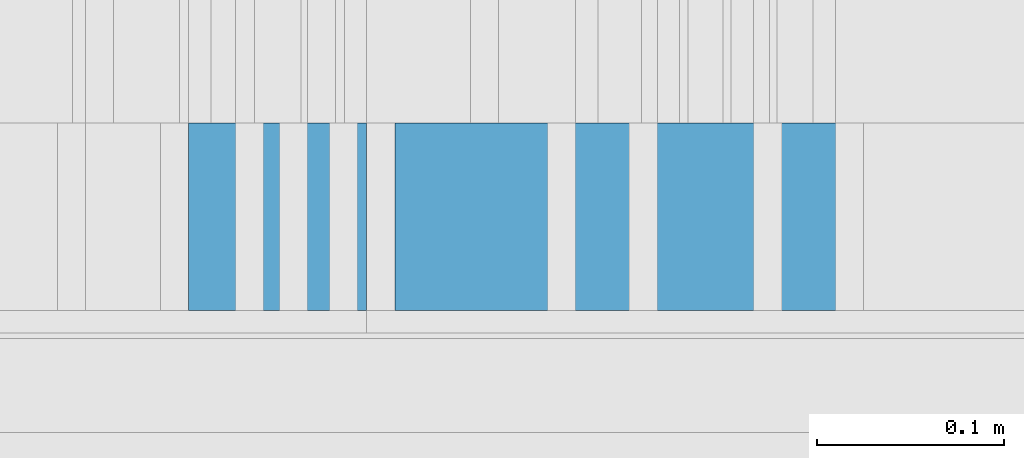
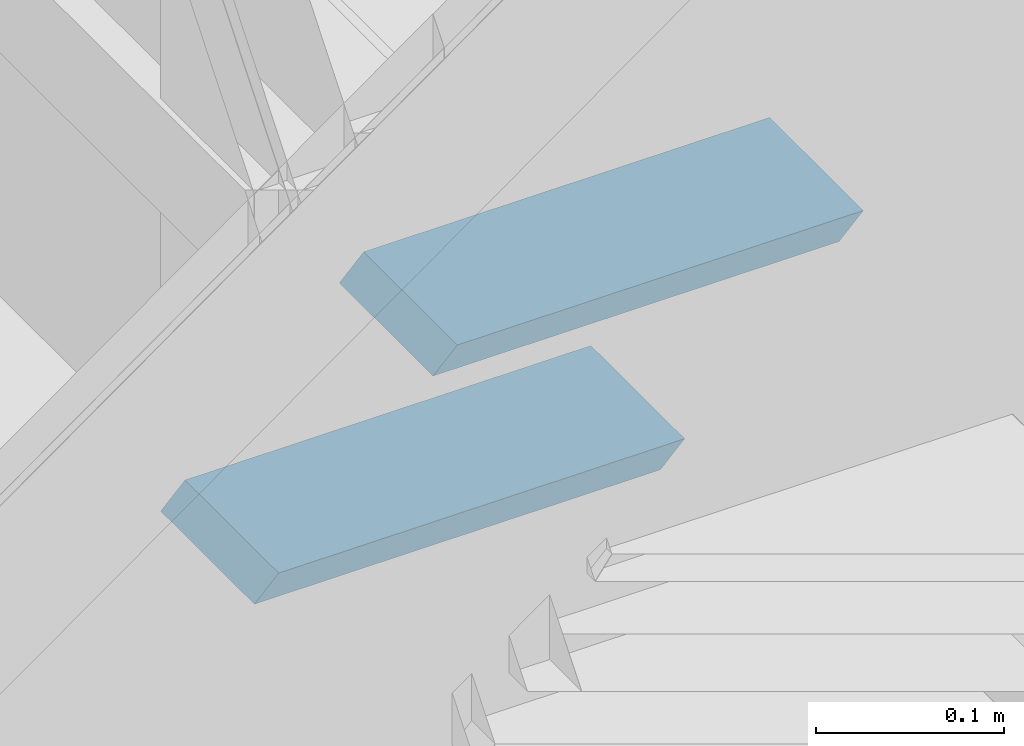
# One storey, part 205 of 583: 2 building element parts, 1 element without a shape of its own.
"""IFC2X3 building model written with IfcOpenShell, lengths in metres."""

from ifc_helpers import new_model, entity, si_unit, converted_unit, derived_unit, money_unit, direction, frame, origin_with_axes, place, context, subcontext, project, spatial, polyline, outline, extrude, material, type_object, element, aggregate, save


model = new_model("IFC2X3")

# Units and contexts
model_context = context("Model", 3, precision=1e-05, world=origin_with_axes(), true_north=direction((0.0, 1.0)))
body_context = subcontext(model_context, "Body", "Model", "MODEL_VIEW", scale=1.0)
ifc_project = project(units=[si_unit("LENGTHUNIT", "METRE"), si_unit("AREAUNIT", "SQUARE_METRE"), si_unit("VOLUMEUNIT", "CUBIC_METRE"), si_unit("ABSORBEDDOSEUNIT", "GRAY"), si_unit("AMOUNTOFSUBSTANCEUNIT", "MOLE"), si_unit("DOSEEQUIVALENTUNIT", "SIEVERT"), si_unit("ELECTRICCAPACITANCEUNIT", "FARAD"), si_unit("ELECTRICCHARGEUNIT", "COULOMB"), si_unit("ELECTRICCONDUCTANCEUNIT", "SIEMENS"), si_unit("ELECTRICCURRENTUNIT", "AMPERE"), si_unit("ELECTRICRESISTANCEUNIT", "OHM"), si_unit("ELECTRICVOLTAGEUNIT", "VOLT"), si_unit("ENERGYUNIT", "JOULE"), si_unit("FORCEUNIT", "NEWTON"), si_unit("FREQUENCYUNIT", "HERTZ"), si_unit("ILLUMINANCEUNIT", "LUX"), si_unit("INDUCTANCEUNIT", "HENRY"), si_unit("LUMINOUSFLUXUNIT", "LUMEN"), si_unit("LUMINOUSINTENSITYUNIT", "CANDELA"), si_unit("MAGNETICFLUXDENSITYUNIT", "TESLA"), si_unit("MAGNETICFLUXUNIT", "WEBER"), si_unit("MASSUNIT", "GRAM"), converted_unit("PLANEANGLEUNIT", "degree", entity("IfcReal", 0.0174532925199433), si_unit("PLANEANGLEUNIT", "RADIAN"), dimensions=[0, 0, 0, 0, 0, 0, 0]), si_unit("POWERUNIT", "WATT"), si_unit("PRESSUREUNIT", "PASCAL"), si_unit("RADIOACTIVITYUNIT", "BECQUEREL"), si_unit("SOLIDANGLEUNIT", "STERADIAN"), si_unit("THERMODYNAMICTEMPERATUREUNIT", "KELVIN"), si_unit("TIMEUNIT", "SECOND"), derived_unit("ACCELERATIONUNIT", [(si_unit("LENGTHUNIT", "METRE"), 1), (si_unit("TIMEUNIT", "SECOND"), -2)]), derived_unit("ANGULARVELOCITYUNIT", [(converted_unit("PLANEANGLEUNIT", "degree", entity("IfcReal", 0.0174532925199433), si_unit("PLANEANGLEUNIT", "RADIAN"), dimensions=[0, 0, 0, 0, 0, 0, 0]), 1), (si_unit("TIMEUNIT", "SECOND"), -1)]), derived_unit("CURVATUREUNIT", [(converted_unit("PLANEANGLEUNIT", "degree", entity("IfcReal", 0.0174532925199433), si_unit("PLANEANGLEUNIT", "RADIAN"), dimensions=[0, 0, 0, 0, 0, 0, 0]), 1), (si_unit("LENGTHUNIT", "METRE"), -1)]), derived_unit("DYNAMICVISCOSITYUNIT", [(si_unit("PRESSUREUNIT", "PASCAL"), 1), (si_unit("TIMEUNIT", "SECOND"), 1)]), derived_unit("HEATFLUXDENSITYUNIT", [(si_unit("POWERUNIT", "WATT"), 1), (si_unit("LENGTHUNIT", "METRE"), -2)]), derived_unit("HEATINGVALUEUNIT", [(si_unit("ENERGYUNIT", "JOULE"), 1), (si_unit("MASSUNIT", "GRAM"), -1)]), derived_unit("INTEGERCOUNTRATEUNIT", [(si_unit("TIMEUNIT", "SECOND"), -1)]), derived_unit("IONCONCENTRATIONUNIT", [(si_unit("MASSUNIT", "GRAM"), 1), (si_unit("VOLUMEUNIT", "CUBIC_METRE"), -1)]), derived_unit("ISOTHERMALMOISTURECAPACITYUNIT", [(si_unit("VOLUMEUNIT", "CUBIC_METRE"), 1), (si_unit("MASSUNIT", "GRAM"), -1)]), derived_unit("KINEMATICVISCOSITYUNIT", [(si_unit("AREAUNIT", "SQUARE_METRE"), 1), (si_unit("TIMEUNIT", "SECOND"), -1)]), derived_unit("LINEARFORCEUNIT", [(si_unit("FORCEUNIT", "NEWTON"), 1), (si_unit("LENGTHUNIT", "METRE"), -1)]), derived_unit("LINEARMOMENTUNIT", [(si_unit("FORCEUNIT", "NEWTON"), 1), (si_unit("LENGTHUNIT", "METRE"), -1)]), derived_unit("LINEARSTIFFNESSUNIT", [(si_unit("FORCEUNIT", "NEWTON"), 1), (si_unit("LENGTHUNIT", "METRE"), -1)]), derived_unit("LINEARVELOCITYUNIT", [(si_unit("LENGTHUNIT", "METRE"), 1), (si_unit("TIMEUNIT", "SECOND"), -1)]), derived_unit("LUMINOUSINTENSITYDISTRIBUTIONUNIT", [(si_unit("LUMINOUSINTENSITYUNIT", "CANDELA"), 1), (si_unit("LUMINOUSFLUXUNIT", "LUMEN"), -1)]), derived_unit("MASSDENSITYUNIT", [(si_unit("MASSUNIT", "GRAM"), 1), (si_unit("VOLUMEUNIT", "CUBIC_METRE"), -1)]), derived_unit("MASSFLOWRATEUNIT", [(si_unit("MASSUNIT", "GRAM"), 1), (si_unit("TIMEUNIT", "SECOND"), -1)]), derived_unit("MASSPERLENGTHUNIT", [(si_unit("MASSUNIT", "GRAM"), 1), (si_unit("LENGTHUNIT", "METRE"), -1)]), derived_unit("MODULUSOFELASTICITYUNIT", [(si_unit("FORCEUNIT", "NEWTON"), 1), (si_unit("AREAUNIT", "SQUARE_METRE"), -1)]), derived_unit("MODULUSOFLINEARSUBGRADEREACTIONUNIT", [(si_unit("FORCEUNIT", "NEWTON"), 1), (si_unit("LENGTHUNIT", "METRE"), -2)]), derived_unit("MODULUSOFROTATIONALSUBGRADEREACTIONUNIT", [(si_unit("FORCEUNIT", "NEWTON"), 1), (si_unit("LENGTHUNIT", "METRE"), 1)]), derived_unit("MODULUSOFSUBGRADEREACTIONUNIT", [(si_unit("FORCEUNIT", "NEWTON"), 1), (si_unit("VOLUMEUNIT", "CUBIC_METRE"), -1)]), derived_unit("MOISTUREDIFFUSIVITYUNIT", [(si_unit("VOLUMEUNIT", "CUBIC_METRE"), 1), (si_unit("TIMEUNIT", "SECOND"), -1)]), derived_unit("MOLECULARWEIGHTUNIT", [(si_unit("MASSUNIT", "GRAM"), 1), (si_unit("AMOUNTOFSUBSTANCEUNIT", "MOLE"), -1)]), derived_unit("PLANARFORCEUNIT", [(si_unit("FORCEUNIT", "NEWTON"), 1), (si_unit("LENGTHUNIT", "METRE"), -2)]), derived_unit("ROTATIONALFREQUENCYUNIT", [(si_unit("TIMEUNIT", "SECOND"), -1)]), derived_unit("ROTATIONALMASSUNIT", [(si_unit("MASSUNIT", "GRAM"), 1), (si_unit("LENGTHUNIT", "METRE"), 2)]), derived_unit("ROTATIONALSTIFFNESSUNIT", [(si_unit("FORCEUNIT", "NEWTON"), 1), (si_unit("LENGTHUNIT", "METRE"), 1), (converted_unit("PLANEANGLEUNIT", "degree", entity("IfcReal", 0.0174532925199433), si_unit("PLANEANGLEUNIT", "RADIAN"), dimensions=[0, 0, 0, 0, 0, 0, 0]), -1)]), derived_unit("SECTIONAREAINTEGRALUNIT", [(si_unit("LENGTHUNIT", "METRE"), 5)]), derived_unit("SECTIONMODULUSUNIT", [(si_unit("LENGTHUNIT", "METRE"), 3)]), derived_unit("SHEARMODULUSUNIT", [(si_unit("FORCEUNIT", "NEWTON"), 1), (si_unit("AREAUNIT", "SQUARE_METRE"), -1)]), derived_unit("SOUNDPOWERUNIT", [(si_unit("ENERGYUNIT", "JOULE"), 1), (si_unit("TIMEUNIT", "SECOND"), -1)]), derived_unit("SPECIFICHEATCAPACITYUNIT", [(si_unit("FORCEUNIT", "NEWTON"), 1), (si_unit("MASSUNIT", "GRAM"), -1), (si_unit("THERMODYNAMICTEMPERATUREUNIT", "KELVIN"), -1)]), derived_unit("TEMPERATUREGRADIENTUNIT", [(si_unit("THERMODYNAMICTEMPERATUREUNIT", "KELVIN"), 1), (si_unit("LENGTHUNIT", "METRE"), -1)]), derived_unit("THERMALADMITTANCEUNIT", [(si_unit("POWERUNIT", "WATT"), 1), (si_unit("AREAUNIT", "SQUARE_METRE"), -1), (si_unit("THERMODYNAMICTEMPERATUREUNIT", "KELVIN"), -1)]), derived_unit("THERMALCONDUCTANCEUNIT", [(si_unit("POWERUNIT", "WATT"), 1), (si_unit("LENGTHUNIT", "METRE"), -1), (si_unit("THERMODYNAMICTEMPERATUREUNIT", "KELVIN"), -1)]), derived_unit("THERMALEXPANSIONCOEFFICIENTUNIT", [(si_unit("THERMODYNAMICTEMPERATUREUNIT", "KELVIN"), -1)]), derived_unit("THERMALRESISTANCEUNIT", [(si_unit("AREAUNIT", "SQUARE_METRE"), 1), (si_unit("POWERUNIT", "WATT"), -1)]), derived_unit("THERMALTRANSMITTANCEUNIT", [(si_unit("POWERUNIT", "WATT"), 1), (si_unit("AREAUNIT", "SQUARE_METRE"), -1), (si_unit("THERMODYNAMICTEMPERATUREUNIT", "KELVIN"), -1)]), derived_unit("TORQUEUNIT", [(si_unit("FORCEUNIT", "NEWTON"), 1), (si_unit("LENGTHUNIT", "METRE"), 1)]), derived_unit("VAPORPERMEABILITYUNIT", [(si_unit("MASSUNIT", "GRAM"), 1), (si_unit("TIMEUNIT", "SECOND"), -1)]), derived_unit("VOLUMETRICFLOWRATEUNIT", [(si_unit("VOLUMEUNIT", "CUBIC_METRE"), 1), (si_unit("TIMEUNIT", "SECOND"), -1)]), derived_unit("WARPINGCONSTANTUNIT", [(si_unit("LENGTHUNIT", "METRE"), 6)]), derived_unit("WARPINGMOMENTUNIT", [(si_unit("FORCEUNIT", "NEWTON"), 1), (si_unit("LENGTHUNIT", "METRE"), 2)]), money_unit("GBP")], contexts=[model_context])

# Site, building, storey
site_placement = place(None, origin_with_axes())
site = spatial("IfcSite", under=ifc_project, at=site_placement, Name="Site", CompositionType="ELEMENT")
building_placement = place(site_placement, origin_with_axes())
building = spatial("IfcBuilding", under=site, at=building_placement, Name="Building01", CompositionType="ELEMENT")
storey_placement = place(building_placement, frame((0.0, 0.0, 20.78), z_axis=(0.0, 0.0, 1.0), x_axis=(1.0, 0.0, 0.0)))
storey = spatial("IfcBuildingStorey", under=building, at=storey_placement, Name="RL", CompositionType="ELEMENT", Elevation=20.78)

# Wall, building element parts
wall_type = type_object("IfcWallType", Name="SHE_A-Walls_Type05a_Partition_95mm_tall", PredefinedType="NOTDEFINED")
wall_placement = place(storey_placement, frame((6.965, 8.64, 0.602661), z_axis=(0.0, 1.0, 0.0), x_axis=(1.0, 0.0, 0.0)))
wall = element("IfcWall", 1, at=wall_placement, inside=storey, type_object=wall_type, Name="5A", ObjectType="SHE_A-Walls_Type05a_Partition_95mm_tall")
ifc_material = material(Name="A_BSUK_Walls_Timber")
placement = place(wall_placement, origin_with_axes())
building_element_part_1 = element("IfcBuildingElementPart", 2, at=placement, material=ifc_material, Name="2", context=body_context, shape_type="SweptSolid", body=[
    extrude(outline(polyline([(0.175, 0.075), (-0.075, 0.075), (-0.06, 0.06), (0.19, 0.06), (0.175, 0.075)])), frame((0.0, 0.0, 0.015), z_axis=(0.0, 0.0, 1.0), x_axis=(1.0, 0.0, 0.0)), (0.0, 0.0, 1.0), 0.1),
])
building_element_part_2 = element("IfcBuildingElementPart", 3, at=placement, material=ifc_material, Name="3", context=body_context, shape_type="SweptSolid", body=[
    extrude(outline(polyline([(0.285, -0.035), (0.035, -0.035), (0.05, -0.05), (0.3, -0.05), (0.285, -0.035)])), frame((0.0, 0.0, 0.015), z_axis=(0.0, 0.0, 1.0), x_axis=(1.0, 0.0, 0.0)), (0.0, 0.0, 1.0), 0.1),
])
aggregate(wall, [building_element_part_1, building_element_part_2])

save(model, "model.ifc")
